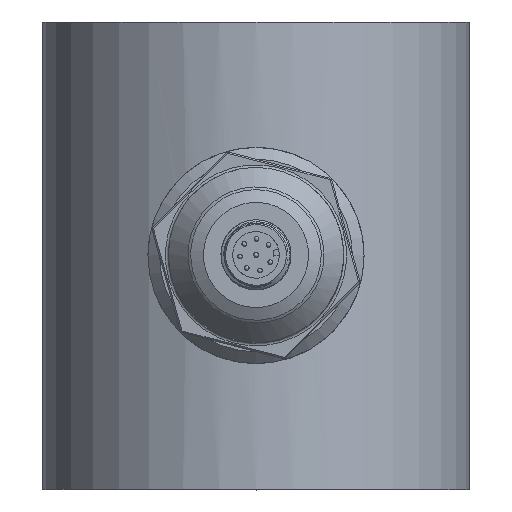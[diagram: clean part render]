
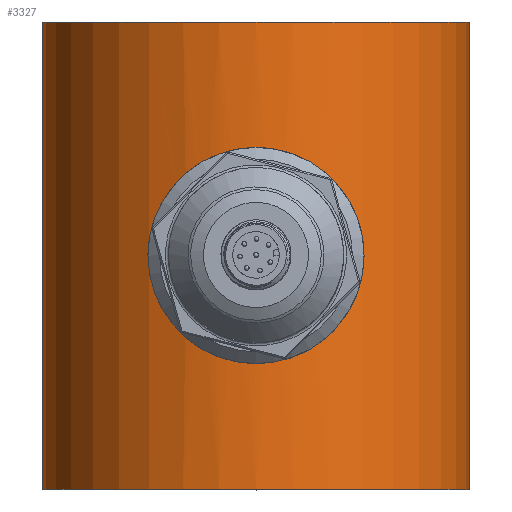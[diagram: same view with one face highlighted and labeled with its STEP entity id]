
A CAD part, top view. The second image highlights one B-rep face of the part: STEP entity #3327.
In plain terms, the highlighted cylindrical face has radius 36.5 mm (diameter 73 mm), a full revolution.
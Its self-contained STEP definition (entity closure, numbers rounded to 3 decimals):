
#652=CIRCLE('',#5137,36.5);
#653=CIRCLE('',#5138,36.5);
#725=ORIENTED_EDGE('',*,*,#1695,.T.);
#726=ORIENTED_EDGE('',*,*,#1696,.F.);
#727=ORIENTED_EDGE('',*,*,#1697,.T.);
#1695=EDGE_CURVE('',#2180,#2180,#2504,.T.);
#1696=EDGE_CURVE('',#2181,#2181,#652,.T.);
#1697=EDGE_CURVE('',#2182,#2182,#653,.T.);
#2180=VERTEX_POINT('',#6051);
#2181=VERTEX_POINT('',#6053);
#2182=VERTEX_POINT('',#6055);
#2504=B_SPLINE_CURVE_WITH_KNOTS('',3,(#6032,#6033,#6034,#6035,#6036,#6037,
#6038,#6039,#6040,#6041,#6042,#6043,#6044,#6045,#6046,#6047,#6048,#6049,
#6050),.UNSPECIFIED.,.T.,.F.,(1,1,1,1,1,1,1,1,1,1,1,1,1,1,1,1,1,1,1,1,1,
1,1),(-0.014,-0.009,-0.005,0.,
0.005,0.009,0.014,0.019,
0.024,0.028,0.033,0.038,
0.042,0.047,0.052,0.057,
0.061,0.066,0.071,0.076,
0.08,0.085,0.09),.UNSPECIFIED.);
#2703=EDGE_LOOP('',(#725));
#2704=EDGE_LOOP('',(#726));
#2705=EDGE_LOOP('',(#727));
#2998=FACE_BOUND('',#2703,.T.);
#2999=FACE_BOUND('',#2704,.T.);
#3000=FACE_BOUND('',#2705,.T.);
#3291=CYLINDRICAL_SURFACE('',#5136,36.5);
#3327=ADVANCED_FACE('',(#2998,#2999,#3000),#3291,.T.);
#5136=AXIS2_PLACEMENT_3D('',#6031,#5362,#5363);
#5137=AXIS2_PLACEMENT_3D('',#6052,#5364,#5365);
#5138=AXIS2_PLACEMENT_3D('',#6054,#5366,#5367);
#5362=DIRECTION('',(0.,-1.,0.));
#5363=DIRECTION('',(0.,0.,-1.));
#5364=DIRECTION('',(0.,1.,0.));
#5365=DIRECTION('',(1.,0.,0.));
#5366=DIRECTION('',(0.,1.,0.));
#5367=DIRECTION('',(1.,0.,0.));
#6031=CARTESIAN_POINT('',(0.,80.,0.));
#6032=CARTESIAN_POINT('',(-11.36,35.252,34.703));
#6033=CARTESIAN_POINT('',(-12.32,40.001,34.355));
#6034=CARTESIAN_POINT('',(-11.361,44.745,34.703));
#6035=CARTESIAN_POINT('',(-8.701,48.702,35.504));
#6036=CARTESIAN_POINT('',(-4.744,51.361,36.283));
#6037=CARTESIAN_POINT('',(-0.01,52.318,36.608));
#6038=CARTESIAN_POINT('',(4.737,51.366,36.284));
#6039=CARTESIAN_POINT('',(8.707,48.697,35.502));
#6040=CARTESIAN_POINT('',(11.362,44.74,34.702));
#6041=CARTESIAN_POINT('',(12.318,40.006,34.356));
#6042=CARTESIAN_POINT('',(11.366,35.266,34.701));
#6043=CARTESIAN_POINT('',(8.706,31.302,35.503));
#6044=CARTESIAN_POINT('',(4.742,28.637,36.283));
#6045=CARTESIAN_POINT('',(0.001,27.682,36.608));
#6046=CARTESIAN_POINT('',(-4.74,28.636,36.284));
#6047=CARTESIAN_POINT('',(-8.702,31.299,35.503));
#6048=CARTESIAN_POINT('',(-11.36,35.252,34.703));
#6049=CARTESIAN_POINT('',(-12.32,40.001,34.355));
#6050=CARTESIAN_POINT('',(-11.361,44.745,34.703));
#6051=CARTESIAN_POINT('',(-12.,40.,34.471));
#6052=CARTESIAN_POINT('',(0.,80.,0.));
#6053=CARTESIAN_POINT('',(36.5,80.,0.));
#6054=CARTESIAN_POINT('',(0.,0.,0.));
#6055=CARTESIAN_POINT('',(36.5,0.,0.));
